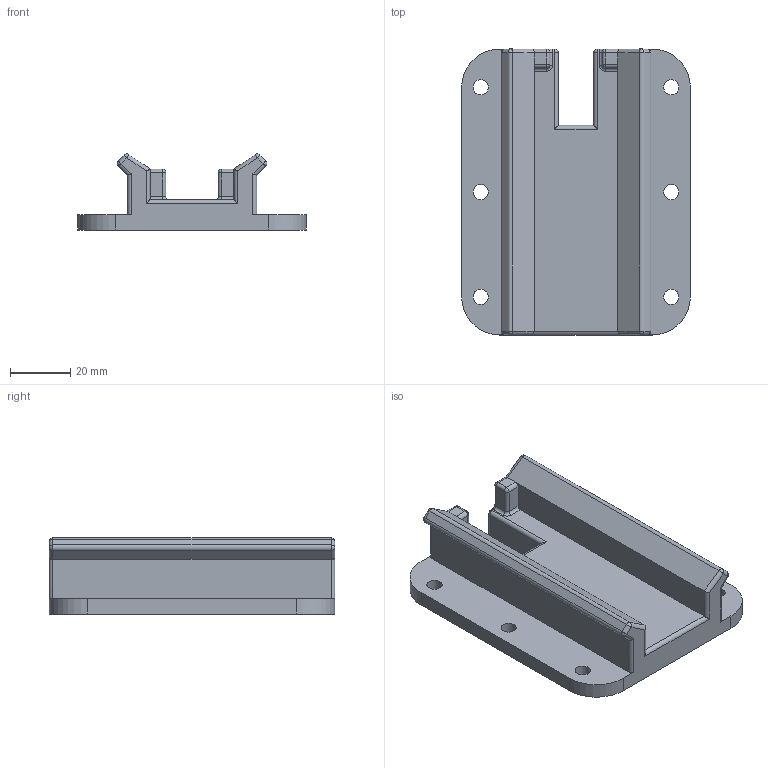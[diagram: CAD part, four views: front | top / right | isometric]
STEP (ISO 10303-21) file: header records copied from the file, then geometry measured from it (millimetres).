
FILE_DESCRIPTION(/* description */ (''),/* implementation_level */ '2;1');
FILE_NAME(/* name */ 'C:/Users/Chandler/Desktop/Gun Cad Drawings/Grip n Rip/Quickdraw V3 (Enclosed 17 mm barrel Gap).step',/* time_stamp */ '2022-01-04T10:45:27-08:00',/* author */ (''),/* organization */ (''),/* preprocessor_version */ 'ST-DEVELOPER v18.1',/* originating_system */ 'Autodesk Translation Framework v10.10.0.1391',/* authorisation */ '');
FILE_SCHEMA (('AUTOMOTIVE_DESIGN { 1 0 10303 214 3 1 1 }'));
Length unit declared in the file: millimetre
Products named in the file (1): (Unsaved)
Bounding box: 76.2 x 95.25 x 25.33 mm (x, y, z)
Volume: 65540.4 mm3; surface area: 28145.4 mm2
Topology: 1 solids, 3 shells, 106 faces, 249 edges, 142 vertices
Faces by surface type: cylinder 56, plane 32, sphere 8, bspline 6, torus 4
Full cylindrical faces by diameter (mm): 5.08 x6, 32.623 x2
Entity records: 3130 total; most frequent: CARTESIAN_POINT 649, DIRECTION 542, ORIENTED_EDGE 484, EDGE_CURVE 242, AXIS2_PLACEMENT_3D 205, VERTEX_POINT 142, LINE 132, VECTOR 132
